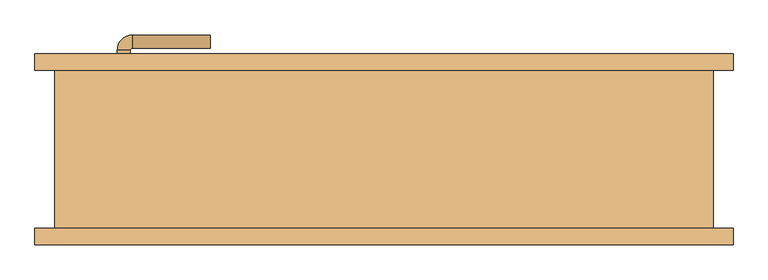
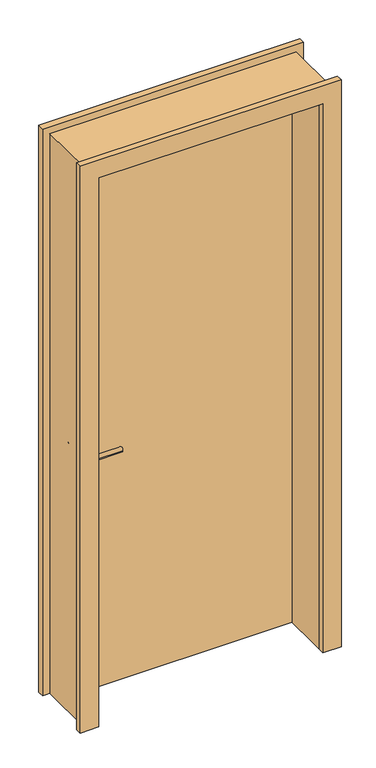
"""IFC4 building model written with IfcOpenShell, lengths in millimetres: door geometry, 单扇平开木门1 : FM甲3."""

import ifcopenshell
import ifcopenshell.guid

model = None  # the IFC model being written
_history = None  # IfcOwnerHistory: only IFC2X3 demands one
_inside = {}  # id of a spatial element -> (the spatial element, [elements in it])
_under = {}  # id of a project, library or spatial element -> (it, [spatial elements below it])
_declared = {}  # id of a project -> (the project, [libraries it declares])
_typed = {}  # id of a type object -> (the type object, [elements of that type])
_made_of = {}  # id of a material, layer set ... -> (it, [elements and type objects made of it])


def new_model(schema):
    """Start an empty IFC model of exactly this schema.

    Asked for "IFC4X3", IfcOpenShell would pick the latest addendum, in which some entities
    have other attributes; the version numbers below select the first issue.
    IFC2X3 requires an IfcOwnerHistory on every rooted entity: one is made here for all.
    """
    global model, _history
    if schema == "IFC4X3":
        model = ifcopenshell.file(schema_version=(4, 3, 0, 0))
    else:
        model = ifcopenshell.file(schema=schema)
    _inside.clear()
    _under.clear()
    _declared.clear()
    _typed.clear()
    _made_of.clear()
    _history = None
    if model.schema == "IFC2X3":
        org = make("IfcOrganization", Name="unknown")
        user = make(
            "IfcPersonAndOrganization",
            ThePerson=make("IfcPerson", FamilyName="unknown"),
            TheOrganization=org,
        )
        app = make(
            "IfcApplication",
            ApplicationDeveloper=org,
            Version="unknown",
            ApplicationFullName="unknown",
            ApplicationIdentifier="unknown",
        )
        _history = make(
            "IfcOwnerHistory",
            OwningUser=user,
            OwningApplication=app,
            ChangeAction="ADDED",
            CreationDate=0,
        )
    return model


def make(cls, **values):
    """One entity of the class cls with the attributes given. An attribute that is None is left unset."""
    return model.create_entity(
        cls, **{name: value for name, value in values.items() if value is not None}
    )


def rooted(cls, **values):
    """An entity with a GlobalId (a new one), such as an element, a storey or a relation."""
    return make(cls, GlobalId=ifcopenshell.guid.new(), OwnerHistory=_history, **values)


def si_unit(unit_type, name, prefix=None):
    """IfcSIUnit, for example si_unit("LENGTHUNIT", "METRE", prefix="MILLI")."""
    return make("IfcSIUnit", UnitType=unit_type, Prefix=prefix, Name=name)


def assignment(units):
    """IfcUnitAssignment: the units of a project."""
    return None if units is None else make("IfcUnitAssignment", Units=units)


def point(xyz):
    """IfcCartesianPoint."""
    return None if xyz is None else make("IfcCartesianPoint", Coordinates=xyz)


def direction(xyz):
    """IfcDirection."""
    return None if xyz is None else make("IfcDirection", DirectionRatios=xyz)


def frame(location, z_axis=None, x_axis=None):
    """IfcAxis2Placement3D, a coordinate frame: its origin and axes. An axis left out is left unset."""
    return make(
        "IfcAxis2Placement3D",
        Location=point(location),
        Axis=direction(z_axis),
        RefDirection=direction(x_axis),
    )


def frame_2d(location, x_axis=None):
    """IfcAxis2Placement2D, a coordinate frame in the plane: its origin and x axis."""
    return make(
        "IfcAxis2Placement2D", Location=point(location), RefDirection=direction(x_axis)
    )


def origin():
    """The frame at (0, 0, 0) with its axes left unset."""
    return frame((0.0, 0.0, 0.0))


def origin_with_axes():
    """The frame at (0, 0, 0) with the z axis (0, 0, 1) and the x axis (1, 0, 0) written out."""
    return frame((0.0, 0.0, 0.0), z_axis=(0.0, 0.0, 1.0), x_axis=(1.0, 0.0, 0.0))


def place(relative_to, where):
    """IfcLocalPlacement: puts the frame where relative to a parent placement (None: the world)."""
    return make(
        "IfcLocalPlacement", PlacementRelTo=relative_to, RelativePlacement=where
    )


def context(
    kind, dimensions, precision=None, world=None, true_north=None, identifier=None
):
    """IfcGeometricRepresentationContext, for example the 3D "Model" context."""
    return make(
        "IfcGeometricRepresentationContext",
        ContextIdentifier=identifier,
        ContextType=kind,
        CoordinateSpaceDimension=dimensions,
        Precision=precision,
        WorldCoordinateSystem=world,
        TrueNorth=true_north,
    )


def project(units=None, contexts=None):
    """IfcProject with its units and contexts."""
    return rooted(
        "IfcProject",
        Name="project",
        RepresentationContexts=contexts,
        UnitsInContext=assignment(units),
    )


def spatial(cls, under=None, at=None, **own):
    """A site, building, storey or space (cls), placed at a placement, below another one or the project."""
    s = rooted(cls, ObjectPlacement=at, **own)
    if under is not None:
        _under.setdefault(under.id(), (under, []))[1].append(s)
    return s


def polyline(points):
    """IfcPolyline through the points."""
    return make("IfcPolyline", Points=[point(p) for p in points])


def circle_curve(where, radius):
    """IfcCircle in the frame where."""
    return make("IfcCircle", Position=where, Radius=radius)


def ellipse_curve(where, semi_axis1, semi_axis2):
    """IfcEllipse in the frame where."""
    return make(
        "IfcEllipse", Position=where, SemiAxis1=semi_axis1, SemiAxis2=semi_axis2
    )


def trimmed(basis, trim1, trim2, sense, master):
    """IfcTrimmedCurve: the piece of a basis curve between two trims."""
    return make(
        "IfcTrimmedCurve",
        BasisCurve=basis,
        Trim1=trim1,
        Trim2=trim2,
        SenseAgreement=sense,
        MasterRepresentation=master,
    )


def segment(curve, same_sense, transition):
    """IfcCompositeCurveSegment."""
    return make(
        "IfcCompositeCurveSegment",
        Transition=transition,
        SameSense=same_sense,
        ParentCurve=curve,
    )


def composite_curve(segments, self_intersect=None):
    """IfcCompositeCurve: segments joined end to end."""
    return make("IfcCompositeCurve", Segments=segments, SelfIntersect=self_intersect)


def outline(outer, holes=None, kind="AREA"):
    """IfcArbitraryClosedProfileDef: a profile drawn as a closed curve; with holes, ...WithVoids."""
    if holes is None:
        return make("IfcArbitraryClosedProfileDef", ProfileType=kind, OuterCurve=outer)
    return make(
        "IfcArbitraryProfileDefWithVoids",
        ProfileType=kind,
        OuterCurve=outer,
        InnerCurves=holes,
    )


def extrude(swept, where, along, depth):
    """IfcExtrudedAreaSolid: the profile swept, set in the frame where, extruded along a direction by depth."""
    return make(
        "IfcExtrudedAreaSolid",
        SweptArea=swept,
        Position=where,
        ExtrudedDirection=direction(along),
        Depth=depth,
    )


def shape(context_of_items, identifier, shape_type, items):
    """IfcShapeRepresentation: the items that make up one representation, for example the "Body"."""
    return make(
        "IfcShapeRepresentation",
        ContextOfItems=context_of_items,
        RepresentationIdentifier=identifier,
        RepresentationType=shape_type,
        Items=items,
    )


def source(mapping_origin, context_of_items, identifier, shape_type, items):
    """IfcRepresentationMap: a shape defined once, which mapped items show again and again."""
    return make(
        "IfcRepresentationMap",
        MappingOrigin=mapping_origin,
        MappedRepresentation=shape(context_of_items, identifier, shape_type, items),
    )


def transform(
    local_origin,
    x_axis=None,
    y_axis=None,
    z_axis=None,
    scale=None,
    scale2=None,
    scale3=None,
    uniform=True,
):
    """IfcCartesianTransformationOperator3D, or its non-uniform kind. x_axis, y_axis, z_axis: its Axis1, 2, 3."""
    if uniform:
        return make(
            "IfcCartesianTransformationOperator3D",
            Axis1=direction(x_axis),
            Axis2=direction(y_axis),
            LocalOrigin=point(local_origin),
            Scale=scale,
            Axis3=direction(z_axis),
        )
    return make(
        "IfcCartesianTransformationOperator3DnonUniform",
        Axis1=direction(x_axis),
        Axis2=direction(y_axis),
        LocalOrigin=point(local_origin),
        Scale=scale,
        Axis3=direction(z_axis),
        Scale2=scale2,
        Scale3=scale3,
    )


def mapped(mapping_source, mapping_target):
    """IfcMappedItem: shows the shape of a source again, moved by a transform."""
    return make(
        "IfcMappedItem", MappingSource=mapping_source, MappingTarget=mapping_target
    )


def made_of(thing, what):
    """Note that an element or type object is made of a material, layer set ...; save() writes the relation."""
    if what is not None:
        _made_of.setdefault(what.id(), (what, []))[1].append(thing)
    return thing


def element(
    cls,
    number,
    at=None,
    inside=None,
    cuts=None,
    type_object=None,
    material=None,
    context=None,
    identifier="Body",
    shape_type=None,
    held_by="IfcProductDefinitionShape",
    body=None,
    shapes=None,
    **own,
):
    """One element of the class cls, such as IfcWall. Its Tag is "e" and its number.

    at: its placement. inside: the storey or other place that contains it. cuts: it is an
    opening in that element (IfcRelVoidsElement). A single representation is given by context,
    identifier, shape_type and body (its items); several are given by shapes. held_by: the class
    of the entity that holds the representations. save() writes the other relations.
    """
    e = rooted(cls, Tag="e%d" % number, ObjectPlacement=at, **own)
    if body is not None:
        shapes = [shape(context, identifier, shape_type, body)]
    if shapes is not None:
        e.Representation = make(held_by, Representations=shapes)
    if inside is not None:
        _inside.setdefault(inside.id(), (inside, []))[1].append(e)
    if cuts is not None:
        rooted(
            "IfcRelVoidsElement", RelatingBuildingElement=cuts, RelatedOpeningElement=e
        )
    if type_object is not None:
        _typed.setdefault(type_object.id(), (type_object, []))[1].append(e)
    return made_of(e, material)


def aggregate(whole, parts):
    """IfcRelAggregates: a whole, such as a stair, and the parts it consists of."""
    return rooted("IfcRelAggregates", RelatingObject=whole, RelatedObjects=parts)


def save(model, path):
    """Write the relations noted so far, then the file.

    IfcRelAggregates (storeys below a building ...), IfcRelContainedInSpatialStructure (elements
    in a storey), IfcRelDefinesByType, IfcRelAssociatesMaterial and IfcRelDeclares: one each for
    every whole, place, type object, material and project.
    """
    for whole, parts in _under.values():
        aggregate(whole, parts)
    for where, things in _inside.values():
        rooted(
            "IfcRelContainedInSpatialStructure",
            RelatedElements=things,
            RelatingStructure=where,
        )
    for kind, things in _typed.values():
        rooted("IfcRelDefinesByType", RelatedObjects=things, RelatingType=kind)
    for what, things in _made_of.values():
        rooted("IfcRelAssociatesMaterial", RelatedObjects=things, RelatingMaterial=what)
    for by, libraries in _declared.values():
        rooted("IfcRelDeclares", RelatingContext=by, RelatedDefinitions=libraries)
    model.write(path)


def plane_surface(at):
    """IfcPlane: the flat surface through the origin of the frame at, square to its z axis."""
    return make("IfcPlane", Position=at)


def cylinder_surface(at, radius):
    """IfcCylindricalSurface: all points at the distance radius from the z axis of the frame at."""
    return make("IfcCylindricalSurface", Position=at, Radius=radius)


def revolved_surface(curve, axis_point, axis_direction):
    """IfcSurfaceOfRevolution: the curve turned about the line through axis_point along axis_direction."""
    return make(
        "IfcSurfaceOfRevolution",
        SweptCurve=make("IfcArbitraryOpenProfileDef", ProfileType="CURVE", Curve=curve),
        AxisPosition=make("IfcAxis1Placement", Location=point(axis_point), Axis=direction(axis_direction)),
    )


def advanced_brep(points, edges, surfaces, faces):
    """IfcAdvancedBrep: a solid bounded by faces that lie on surfaces and meet in shared edges.

    An edge is (start, end): straight between two places in points (the first is 0);
    or (start, end, curve); or (start, end, curve, False) where it runs against its curve.
    A face is (place in surfaces, loops), or (place, loops, False) where it looks against
    its surface's normal. A loop lists edges by number (the first is 1), with a minus sign
    where the edge is run from its end to its start. The first loop is the outer one.
    """
    corners = [point(p) for p in points]
    vertices = [make("IfcVertexPoint", VertexGeometry=c) for c in corners]
    made = []
    for start, end, *more in edges:
        made.append(
            make(
                "IfcEdgeCurve",
                EdgeStart=vertices[start],
                EdgeEnd=vertices[end],
                EdgeGeometry=more[0] if more else make("IfcPolyline", Points=[corners[start], corners[end]]),
                SameSense=more[1] if len(more) > 1 else True,
            )
        )
    hull = []
    for where, loops, *sense in faces:
        bounds = []
        for j, loop in enumerate(loops):
            ring = [make("IfcOrientedEdge", EdgeElement=made[abs(k) - 1], Orientation=k > 0) for k in loop]
            bounds.append(
                make(
                    "IfcFaceOuterBound" if j == 0 else "IfcFaceBound",
                    Bound=make("IfcEdgeLoop", EdgeList=ring),
                    Orientation=True,
                )
            )
        hull.append(make("IfcAdvancedFace", Bounds=bounds, FaceSurface=surfaces[where], SameSense=sense[0] if sense else True))
    return make("IfcAdvancedBrep", Outer=make("IfcClosedShell", CfsFaces=hull))


def door_eaa0aaae(model_context):
    return source(origin(), model_context, "Body", "SolidModel", [
        extrude(outline(composite_curve([segment(trimmed(circle_curve(frame_2d((900.0, -395.0)), 25.0), [point((900.0, -370.0))], [point((900.0, -420.0))], False, "CARTESIAN"), True, "CONTINUOUS"), segment(trimmed(circle_curve(frame_2d((900.0, -395.0)), 25.0), [point((900.0, -420.0))], [point((900.0, -370.0))], False, "CARTESIAN"), True, "CONTINUOUS")], self_intersect=False)), frame((0.0, 60.0, 0.0), z_axis=(0.0, 1.0, 0.0), x_axis=(0.0, 0.0, 1.0)), (0.0, 0.0, 1.0), 10.0),
        extrude(outline(composite_curve([segment(trimmed(circle_curve(frame_2d((900.0, -395.0)), 25.0), [point((900.0, -370.0))], [point((900.0, -420.0))], False, "CARTESIAN"), True, "CONTINUOUS"), segment(trimmed(circle_curve(frame_2d((900.0, -395.0)), 25.0), [point((900.0, -420.0))], [point((900.0, -370.0))], False, "CARTESIAN"), True, "CONTINUOUS")], self_intersect=False)), frame((0.0, 120.0, 0.0), z_axis=(0.0, 1.0, 0.0), x_axis=(0.0, 0.0, 1.0)), (0.0, 0.0, 1.0), 10.0),
        advanced_brep(
        [(-405.0, 60.0, 1020.0), (-385.0, 60.0, 1020.0), (-385.0, 39.386645, 1020.0), (-405.0, 39.386645, 1020.0), (-263.419036, 16.419036, 1020.0), (-263.419036, 36.419036, 1020.0), (-382.0323911, 36.419036, 1020.0), (-382.0323911, 16.419036, 1020.0)],
        [
            (0, 1, circle_curve(frame((-395.0, 60.0, 1020.0), z_axis=(0.0, 1.0, 0.0), x_axis=(1.0, 0.0, 0.0)), 10.0)),
            (1, 0, circle_curve(frame((-395.0, 60.0, 1020.0), z_axis=(0.0, 1.0, 0.0), x_axis=(1.0, 0.0, 0.0)), 10.0)),
            (1, 2),
            (2, 3, circle_curve(frame((-395.0, 39.386645, 1020.0), z_axis=(0.0, 1.0, 0.0), x_axis=(1.0, 0.0, 0.0)), 10.0)),
            (3, 0),
            (3, 2, circle_curve(frame((-395.0, 39.386645, 1020.0), z_axis=(0.0, 1.0, 0.0), x_axis=(1.0, 0.0, 0.0)), 10.0)),
            (4, 5, circle_curve(frame((-263.419036, 26.419036, 1020.0), z_axis=(1.0, 0.0, 0.0), x_axis=(0.0, 1.0, 0.0)), 10.0)),
            (5, 4, circle_curve(frame((-263.419036, 26.419036, 1020.0), z_axis=(1.0, 0.0, 0.0), x_axis=(0.0, 1.0, 0.0)), 10.0)),
            (6, 2, circle_curve(frame((-382.0323911, 39.386645, 1020.0), z_axis=(0.0, 0.0, -1.0), x_axis=(-1.0, 0.0, 0.0)), 2.9676089)),
            (3, 7, circle_curve(frame((-382.0323911, 39.386645, 1020.0), z_axis=(0.0, 0.0, 1.0), x_axis=(-1.0, 0.0, 0.0)), 22.9676089)),
            (7, 6, circle_curve(frame((-382.0323911, 26.419036, 1020.0), z_axis=(-1.0, 0.0, 0.0), x_axis=(0.0, 1.0, 0.0)), 10.0)),
            (6, 7, circle_curve(frame((-382.0323911, 26.419036, 1020.0), z_axis=(-1.0, 0.0, 0.0), x_axis=(0.0, 1.0, 0.0)), 10.0)),
            (7, 4),
            (5, 6),
        ],
        [
            plane_surface(frame((-395.0, 60.0, 900.0), z_axis=(0.0, 1.0, 0.0), x_axis=(0.0, 0.0, 1.0))),
            cylinder_surface(frame((-395.0, 60.0, 1020.0), z_axis=(0.0, 1.0, 0.0), x_axis=(1.0, 0.0, 0.0)), 10.0),
            plane_surface(frame((-263.419036, 26.419036, 900.0), z_axis=(1.0, 0.0, 0.0), x_axis=(0.0, 0.0, 1.0))),
            revolved_surface(trimmed(ellipse_curve(frame((-395.0, 39.386645, 1020.0), z_axis=(0.0, 1.0, 0.0), x_axis=(1.0, 0.0, 0.0)), 10.0, 10.0), [point((-405.0, 39.386645, 1020.0))], [point((-385.0, 39.386645, 1020.0))], True, "CARTESIAN"), (-382.0323911, 39.386645, 900.0), (0.0, 0.0, 1.0)),
            revolved_surface(trimmed(ellipse_curve(frame((-395.0, 39.386645, 1020.0), z_axis=(0.0, 1.0, 0.0), x_axis=(1.0, 0.0, 0.0)), 10.0, 10.0), [point((-385.0, 39.386645, 1020.0))], [point((-405.0, 39.386645, 1020.0))], True, "CARTESIAN"), (-382.0323911, 39.386645, 900.0), (0.0, 0.0, 1.0)),
            cylinder_surface(frame((-382.0323911, 26.419036, 1020.0), z_axis=(-1.0, 0.0, 0.0), x_axis=(0.0, 1.0, 0.0)), 10.0),
        ],
        [
            (0, [[1, 2]]),
            (1, [[-2, 3, 4, 5]]),
            (1, [[-1, -5, 6, -3]]),
            (2, [[7, 8]]),
            (3, [[9, -6, 10, 11]]),
            (4, [[-10, -4, -9, 12]]),
            (5, [[-11, 13, -8, 14]]),
            (5, [[-12, -14, -7, -13]]),
        ],
    ),
        extrude(outline(composite_curve([segment(trimmed(circle_curve(frame_2d((1020.0, -395.0)), 25.0), [point((1020.0, -370.0))], [point((1020.0, -420.0))], False, "CARTESIAN"), True, "CONTINUOUS"), segment(trimmed(circle_curve(frame_2d((1020.0, -395.0)), 25.0), [point((1020.0, -420.0))], [point((1020.0, -370.0))], False, "CARTESIAN"), True, "CONTINUOUS")], self_intersect=False)), frame((0.0, 60.0, 0.0), z_axis=(0.0, 1.0, 0.0), x_axis=(0.0, 0.0, 1.0)), (0.0, 0.0, 1.0), 10.0),
        advanced_brep(
        [(-385.0, 130.0, 1020.0), (-405.0, 130.0, 1020.0), (-385.0, 150.6133551, 1020.0), (-405.0, 150.6133551, 1020.0), (-263.419036, 153.580964, 1020.0), (-263.419036, 173.580964, 1020.0), (-382.0323911, 173.580964, 1020.0), (-382.0323911, 153.580964, 1020.0)],
        [
            (0, 1, circle_curve(frame((-395.0, 130.0, 1020.0), z_axis=(0.0, -1.0, 0.0), x_axis=(-1.0, 0.0, 0.0)), 10.0)),
            (1, 0, circle_curve(frame((-395.0, 130.0, 1020.0), z_axis=(0.0, -1.0, 0.0), x_axis=(-1.0, 0.0, 0.0)), 10.0)),
            (0, 2),
            (2, 3, circle_curve(frame((-395.0, 150.6133551, 1020.0), z_axis=(0.0, -1.0, 0.0), x_axis=(-1.0, 0.0, 0.0)), 10.0)),
            (3, 1),
            (3, 2, circle_curve(frame((-395.0, 150.6133551, 1020.0), z_axis=(0.0, -1.0, 0.0), x_axis=(-1.0, 0.0, 0.0)), 10.0)),
            (4, 5, circle_curve(frame((-263.419036, 163.580964, 1020.0), z_axis=(1.0, 0.0, 0.0), x_axis=(0.0, 1.0, 0.0)), 10.0)),
            (5, 4, circle_curve(frame((-263.419036, 163.580964, 1020.0), z_axis=(1.0, 0.0, 0.0), x_axis=(0.0, 1.0, 0.0)), 10.0)),
            (6, 3, circle_curve(frame((-382.0323911, 150.6133551, 1020.0), z_axis=(0.0, 0.0, 1.0), x_axis=(-1.0, 0.0, 0.0)), 22.9676089)),
            (2, 7, circle_curve(frame((-382.0323911, 150.6133551, 1020.0), z_axis=(0.0, 0.0, -1.0), x_axis=(-1.0, 0.0, 0.0)), 2.9676089)),
            (7, 6, circle_curve(frame((-382.0323911, 163.580964, 1020.0), z_axis=(-1.0, 0.0, 0.0), x_axis=(0.0, 1.0, 0.0)), 10.0)),
            (6, 7, circle_curve(frame((-382.0323911, 163.580964, 1020.0), z_axis=(-1.0, 0.0, 0.0), x_axis=(0.0, 1.0, 0.0)), 10.0)),
            (7, 4),
            (5, 6),
        ],
        [
            plane_surface(frame((-395.0, 130.0, 900.0), z_axis=(0.0, -1.0, 0.0), x_axis=(0.0, 0.0, 1.0))),
            cylinder_surface(frame((-395.0, 130.0, 1020.0), z_axis=(0.0, -1.0, 0.0), x_axis=(-1.0, 0.0, 0.0)), 10.0),
            plane_surface(frame((-263.419036, 163.580964, 900.0), z_axis=(1.0, 0.0, 0.0), x_axis=(0.0, 0.0, 1.0))),
            revolved_surface(trimmed(ellipse_curve(frame((-395.0, 150.6133551, 1020.0), z_axis=(0.0, -1.0, 0.0), x_axis=(-1.0, 0.0, 0.0)), 10.0, 10.0), [point((-385.0, 150.6133551, 1020.0))], [point((-405.0, 150.6133551, 1020.0))], True, "CARTESIAN"), (-382.0323911, 150.6133551, 900.0), (0.0, 0.0, -1.0)),
            revolved_surface(trimmed(ellipse_curve(frame((-395.0, 150.6133551, 1020.0), z_axis=(0.0, -1.0, 0.0), x_axis=(-1.0, 0.0, 0.0)), 10.0, 10.0), [point((-405.0, 150.6133551, 1020.0))], [point((-385.0, 150.6133551, 1020.0))], True, "CARTESIAN"), (-382.0323911, 150.6133551, 900.0), (0.0, 0.0, -1.0)),
            cylinder_surface(frame((-382.0323911, 163.580964, 1020.0), z_axis=(-1.0, 0.0, 0.0), x_axis=(0.0, 1.0, 0.0)), 10.0),
        ],
        [
            (0, [[1, 2]]),
            (1, [[-1, 3, 4, 5]]),
            (1, [[-2, -5, 6, -3]]),
            (2, [[7, 8]]),
            (3, [[9, -4, 10, 11]]),
            (4, [[-10, -6, -9, 12]]),
            (5, [[-11, 13, -8, 14]]),
            (5, [[-12, -14, -7, -13]]),
        ],
    ),
        extrude(outline(composite_curve([segment(trimmed(circle_curve(frame_2d((1020.0, -395.0)), 25.0), [point((1020.0, -370.0))], [point((1020.0, -420.0))], False, "CARTESIAN"), True, "CONTINUOUS"), segment(trimmed(circle_curve(frame_2d((1020.0, -395.0)), 25.0), [point((1020.0, -420.0))], [point((1020.0, -370.0))], False, "CARTESIAN"), True, "CONTINUOUS")], self_intersect=False)), frame((0.0, 120.0, 0.0), z_axis=(0.0, 1.0, 0.0), x_axis=(0.0, 0.0, 1.0)), (0.0, 0.0, 1.0), 10.0),
        extrude(outline(polyline([(0.0, 530.0), (2430.0, 530.0), (2430.0, -530.0), (0.0, -530.0), (0.0, -455.0), (2355.0, -455.0), (2355.0, 455.0), (0.0, 455.0), (0.0, 530.0)])), frame((0.0, 120.0, 0.0), z_axis=(0.0, 1.0, 0.0), x_axis=(0.0, 0.0, 1.0)), (0.0, 0.0, 1.0), 25.0),
        extrude(outline(polyline([(2430.0, 530.0), (2430.0, -530.0), (0.0, -530.0), (0.0, -455.0), (2355.0, -455.0), (2355.0, 455.0), (0.0, 455.0), (0.0, 530.0), (2430.0, 530.0)])), frame((0.0, -145.0, 0.0), z_axis=(0.0, 1.0, 0.0), x_axis=(0.0, 0.0, 1.0)), (0.0, 0.0, 1.0), 25.0),
        extrude(outline(polyline([(455.0, 70.0), (-455.0, 70.0), (-455.0, 120.0), (455.0, 120.0), (455.0, 70.0)])), origin_with_axes(), (0.0, 0.0, 1.0), 2355.0),
        extrude(outline(polyline([(2400.0, -500.0), (0.0, -500.0), (0.0, -455.0), (2355.0, -455.0), (2355.0, 455.0), (0.0, 455.0), (0.0, 500.0), (2400.0, 500.0), (2400.0, -500.0)])), frame((0.0, -120.0, 0.0), z_axis=(0.0, 1.0, 0.0), x_axis=(0.0, 0.0, 1.0)), (0.0, 0.0, 1.0), 240.0),
    ])


if __name__ == "__main__":
    model = new_model("IFC4")
    model_context = context("Model", 3, world=origin())
    ifc_project = project(units=[si_unit("LENGTHUNIT", "METRE", prefix="MILLI")], contexts=[model_context])
    site = spatial("IfcSite", under=ifc_project)
    building = spatial("IfcBuilding", under=site)
    placement = place(None, origin())
    door_shape = door_eaa0aaae(model_context)
    element("IfcDoor", 1, ObjectType="单扇平开木门1 : FM甲3", at=placement, inside=building, context=model_context, shape_type="MappedRepresentation", body=[
        mapped(door_shape, transform((0.0, 0.0, 0.0), x_axis=(1.0, 0.0, 0.0), y_axis=(0.0, 1.0, 0.0), z_axis=(0.0, 0.0, 1.0))),
    ])
    save(model, "model.ifc")
